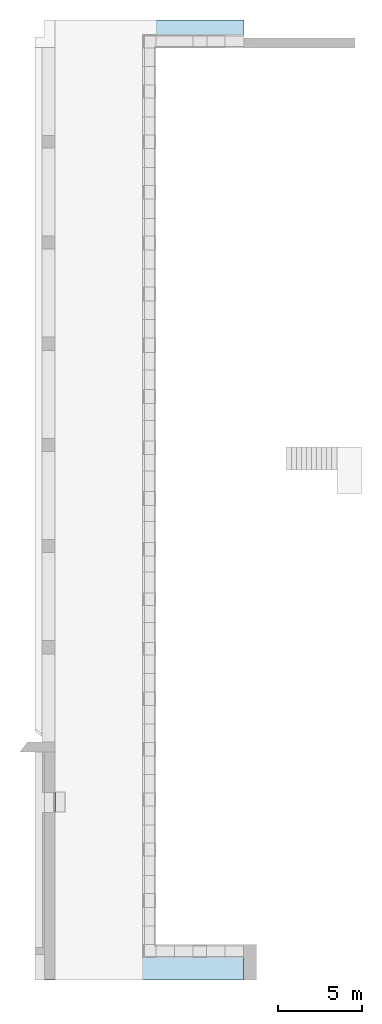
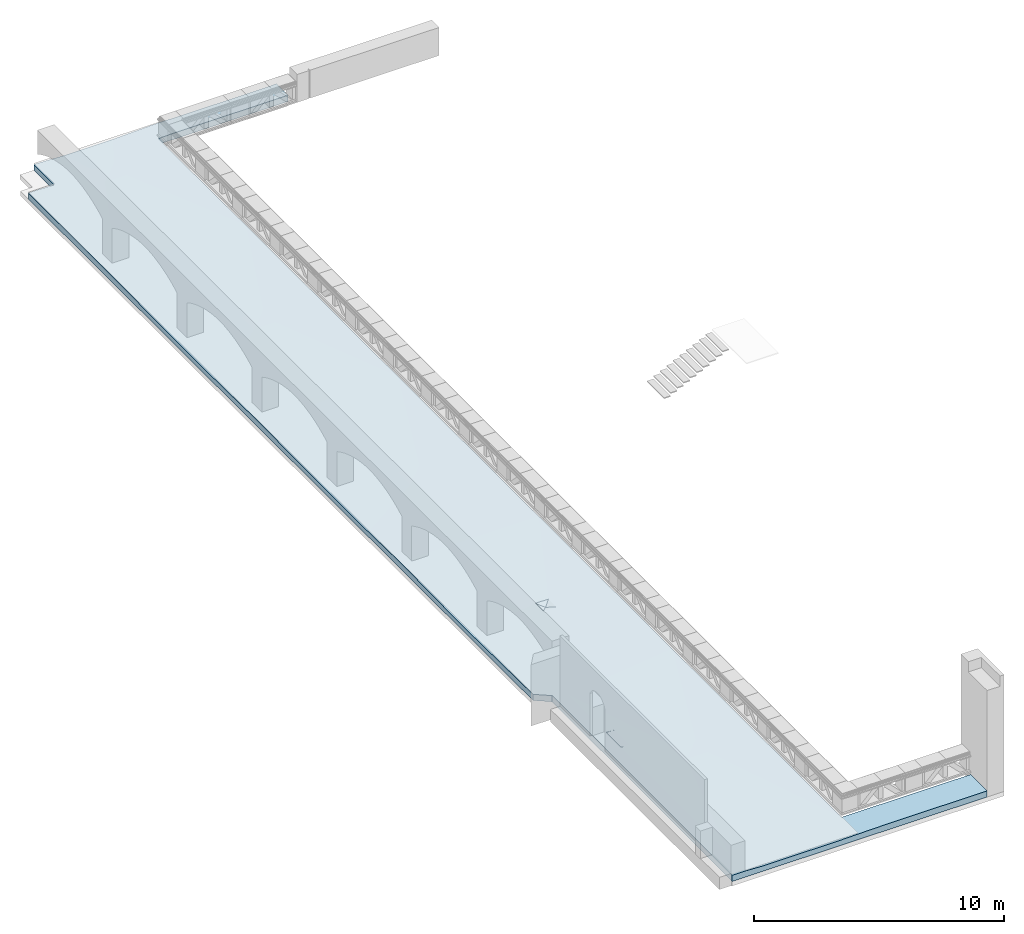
# One storey, part 5 of 9: 1 roof.
"""IFC2X3 building model written with IfcOpenShell, lengths in millimetres."""

from ifc_helpers import new_model, entity, si_unit, converted_unit, derived_unit, direction, frame, origin, place, context, subcontext, project, spatial, faceted_brep, material, layer, layer_set, element, save


model = new_model("IFC2X3")

# Units and contexts
model_context = context("Model", 3, precision=0.01, world=origin(), true_north=direction((6.123031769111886e-17, 1.0)))
body_context = subcontext(model_context, "Body", "Model", "MODEL_VIEW")
ifc_project = project(units=[si_unit("LENGTHUNIT", "METRE", prefix="MILLI"), si_unit("AREAUNIT", "SQUARE_METRE"), si_unit("VOLUMEUNIT", "CUBIC_METRE"), converted_unit("PLANEANGLEUNIT", "DEGREE", entity("IfcPlaneAngleMeasure", 0.017453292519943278), si_unit("PLANEANGLEUNIT", "RADIAN"), dimensions=[0, 0, 0, 0, 0, 0, 0]), si_unit("MASSUNIT", "GRAM", prefix="KILO"), derived_unit("MASSDENSITYUNIT", [(si_unit("MASSUNIT", "GRAM", prefix="KILO"), 1), (si_unit("LENGTHUNIT", "METRE"), -3)]), derived_unit("IONCONCENTRATIONUNIT", [(si_unit("MASSUNIT", "GRAM", prefix="KILO"), 1), (si_unit("LENGTHUNIT", "METRE"), -3)]), derived_unit("MOMENTOFINERTIAUNIT", [(si_unit("LENGTHUNIT", "METRE"), 4)]), si_unit("TIMEUNIT", "SECOND"), si_unit("FREQUENCYUNIT", "HERTZ"), si_unit("THERMODYNAMICTEMPERATUREUNIT", "DEGREE_CELSIUS"), derived_unit("THERMALTRANSMITTANCEUNIT", [(si_unit("MASSUNIT", "GRAM", prefix="KILO"), 1), (si_unit("THERMODYNAMICTEMPERATUREUNIT", "KELVIN"), -1), (si_unit("TIMEUNIT", "SECOND"), -3)]), derived_unit("THERMALCONDUCTANCEUNIT", [(si_unit("MASSUNIT", "GRAM", prefix="KILO"), 1), (si_unit("THERMODYNAMICTEMPERATUREUNIT", "KELVIN"), -1), (si_unit("TIMEUNIT", "SECOND"), -3), (si_unit("LENGTHUNIT", "METRE"), 1)]), derived_unit("VOLUMETRICFLOWRATEUNIT", [(si_unit("LENGTHUNIT", "METRE", prefix="DECI"), 3), (si_unit("TIMEUNIT", "SECOND"), -1)]), derived_unit("MASSFLOWRATEUNIT", [(si_unit("MASSUNIT", "GRAM", prefix="KILO"), 1), (si_unit("TIMEUNIT", "SECOND"), -1)]), derived_unit("ROTATIONALFREQUENCYUNIT", [(si_unit("TIMEUNIT", "SECOND"), -1)]), si_unit("ELECTRICCURRENTUNIT", "AMPERE"), si_unit("ELECTRICVOLTAGEUNIT", "VOLT"), si_unit("POWERUNIT", "WATT"), si_unit("FORCEUNIT", "NEWTON", prefix="KILO"), si_unit("ILLUMINANCEUNIT", "LUX"), si_unit("LUMINOUSFLUXUNIT", "LUMEN"), si_unit("LUMINOUSINTENSITYUNIT", "CANDELA"), si_unit("ENERGYUNIT", "JOULE"), derived_unit("USERDEFINED", [(si_unit("MASSUNIT", "GRAM", prefix="KILO"), -1), (si_unit("LENGTHUNIT", "METRE"), -2), (si_unit("TIMEUNIT", "SECOND"), 3), (si_unit("LUMINOUSFLUXUNIT", "LUMEN"), 1)]), derived_unit("USERDEFINED", [(si_unit("MASSUNIT", "GRAM", prefix="KILO"), 1), (si_unit("TIMEUNIT", "SECOND"), -3), (si_unit("LENGTHUNIT", "METRE"), 3), (si_unit("ELECTRICCURRENTUNIT", "AMPERE"), -2)]), derived_unit("SOUNDPOWERUNIT", [(si_unit("MASSUNIT", "GRAM", prefix="KILO"), 1), (si_unit("TIMEUNIT", "SECOND"), -3), (si_unit("LENGTHUNIT", "METRE"), 2)]), derived_unit("SOUNDPRESSUREUNIT", [(si_unit("MASSUNIT", "GRAM", prefix="KILO"), 1), (si_unit("LENGTHUNIT", "METRE"), -1), (si_unit("TIMEUNIT", "SECOND"), -2)]), derived_unit("LINEARVELOCITYUNIT", [(si_unit("LENGTHUNIT", "METRE"), 1), (si_unit("TIMEUNIT", "SECOND"), -1)]), si_unit("PRESSUREUNIT", "PASCAL"), derived_unit("USERDEFINED", [(si_unit("MASSUNIT", "GRAM", prefix="KILO"), 1), (si_unit("LENGTHUNIT", "METRE"), -2), (si_unit("TIMEUNIT", "SECOND"), -2)]), derived_unit("LINEARFORCEUNIT", [(si_unit("MASSUNIT", "GRAM", prefix="KILO"), 1), (si_unit("TIMEUNIT", "SECOND"), -2)]), derived_unit("PLANARFORCEUNIT", [(si_unit("MASSUNIT", "GRAM", prefix="KILO"), 1), (si_unit("LENGTHUNIT", "METRE"), -1), (si_unit("TIMEUNIT", "SECOND"), -2)]), derived_unit("SPECIFICHEATCAPACITYUNIT", [(si_unit("THERMODYNAMICTEMPERATUREUNIT", "KELVIN"), -1), (si_unit("LENGTHUNIT", "METRE"), 2), (si_unit("TIMEUNIT", "SECOND"), -2)]), derived_unit("HEATFLUXDENSITYUNIT", [(si_unit("MASSUNIT", "GRAM", prefix="KILO"), 1), (si_unit("TIMEUNIT", "SECOND"), -3)]), derived_unit("HEATINGVALUEUNIT", [(si_unit("LENGTHUNIT", "METRE"), 2), (si_unit("TIMEUNIT", "SECOND"), -2)]), derived_unit("VAPORPERMEABILITYUNIT", [(si_unit("LENGTHUNIT", "METRE"), -1), (si_unit("TIMEUNIT", "SECOND"), 1)]), derived_unit("DYNAMICVISCOSITYUNIT", [(si_unit("MASSUNIT", "GRAM", prefix="KILO"), 1), (si_unit("TIMEUNIT", "SECOND"), -1), (si_unit("LENGTHUNIT", "METRE"), -1)]), derived_unit("THERMALEXPANSIONCOEFFICIENTUNIT", [(si_unit("THERMODYNAMICTEMPERATUREUNIT", "KELVIN"), -1)]), derived_unit("MODULUSOFELASTICITYUNIT", [(si_unit("MASSUNIT", "GRAM", prefix="KILO"), 1), (si_unit("LENGTHUNIT", "METRE"), -1), (si_unit("TIMEUNIT", "SECOND"), -2)]), derived_unit("ISOTHERMALMOISTURECAPACITYUNIT", [(si_unit("MASSUNIT", "GRAM", prefix="KILO"), -1), (si_unit("LENGTHUNIT", "METRE"), 3)]), derived_unit("MOISTUREDIFFUSIVITYUNIT", [(si_unit("TIMEUNIT", "SECOND"), -1), (si_unit("LENGTHUNIT", "METRE"), 2)]), derived_unit("MASSPERLENGTHUNIT", [(si_unit("MASSUNIT", "GRAM", prefix="KILO"), 1), (si_unit("LENGTHUNIT", "METRE"), -1)]), derived_unit("THERMALRESISTANCEUNIT", [(si_unit("MASSUNIT", "GRAM", prefix="KILO"), -1), (si_unit("TIMEUNIT", "SECOND"), 3), (si_unit("THERMODYNAMICTEMPERATUREUNIT", "KELVIN"), 1)]), derived_unit("ACCELERATIONUNIT", [(si_unit("LENGTHUNIT", "METRE"), 1), (si_unit("TIMEUNIT", "SECOND"), -2)]), derived_unit("ANGULARVELOCITYUNIT", [(si_unit("TIMEUNIT", "SECOND"), -1), (si_unit("PLANEANGLEUNIT", "RADIAN"), 1)]), derived_unit("LINEARSTIFFNESSUNIT", [(si_unit("MASSUNIT", "GRAM", prefix="KILO"), 1), (si_unit("TIMEUNIT", "SECOND"), -2)]), derived_unit("WARPINGCONSTANTUNIT", [(si_unit("LENGTHUNIT", "METRE"), 6)]), derived_unit("LINEARMOMENTUNIT", [(si_unit("MASSUNIT", "GRAM", prefix="KILO"), 1), (si_unit("LENGTHUNIT", "METRE"), 1), (si_unit("TIMEUNIT", "SECOND"), -2)]), derived_unit("TORQUEUNIT", [(si_unit("MASSUNIT", "GRAM", prefix="KILO"), 1), (si_unit("LENGTHUNIT", "METRE"), 2), (si_unit("TIMEUNIT", "SECOND"), -2)])], contexts=[model_context])

# Site, building, storey
site_placement = place(None, origin())
site = spatial("IfcSite", under=ifc_project, at=site_placement, Name="Default", CompositionType="ELEMENT")
building_placement = place(site_placement, origin())
building = spatial("IfcBuilding", under=site, at=building_placement, Name="Eesti Rahvusraamatukogu hoone renoveerimise projekteerimistööd", CompositionType="ELEMENT")
storey_placement = place(building_placement, frame((0.0, 0.0, 3100.0)))
storey = spatial("IfcBuildingStorey", under=building, at=storey_placement, Name="E-korpus 2. korrus", CompositionType="ELEMENT", Elevation=3100.0)

# Roof
ifc_material_1 = material(Name="EST. Betoon. Kohtvalu")
ifc_layer_1 = layer(ifc_material_1, 50.0)
ifc_material_2 = material(Name="EST. Soojustus. EPS 100 kaldekiht, PIR Kingspan Therma TP10 100mm")
ifc_layer_2 = layer(ifc_material_2, 250.00000000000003)
ifc_layer_set = layer_set([ifc_layer_1, ifc_layer_2], Name="Basic Roof:KL-21 - käidav, betoonplaat")
roof_placement = place(storey_placement, frame((-49781.62808124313, -1321.279790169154, 100.0)))
element("IfcRoof", 1, at=roof_placement, inside=storey, material=ifc_layer_set, Name="Basic Roof:KL-21 - käidav, betoonplaat", ObjectType="Basic Roof:KL-21 - käidav, betoonplaat", ShapeType="NOTDEFINED", context=body_context, shape_type="Brep", body=[
    faceted_brep([(588.4700814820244, 0.0, 0.0), (616.0967259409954, 13396.279790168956, 0.0), (618.2873120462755, 14458.504499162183, 0.0), (0.0, 14924.417407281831, 0.0), (0.0, 55327.07979016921, 0.0), (1201.6280812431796, 55327.0797901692, 0.0), (1201.6280812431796, 56967.20177759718, 0.0), (12411.628081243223, 56967.20177759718, 0.0), (12411.628081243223, 56031.65607004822, 0.0), (6411.628081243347, 56031.65607004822, 0.0), (6411.628081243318, 1321.2797901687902, 0.0), (12371.628081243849, 1321.2797901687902, 0.0), (12371.628081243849, 0.0, 0.0), (1201.6280812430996, 0.0, 0.0), (6411.628081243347, 56031.65607004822, 280.0), (6411.628081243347, 49014.359068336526, 300.0), (6411.628081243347, 14890.719993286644, 300.0), (6411.628081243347, 1321.2797901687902, 300.0), (12411.628081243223, 56031.65607004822, 300.0), (7221.628081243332, 56031.65607004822, 300.0), (7189.848851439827, 56031.65607004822, 300.0), (12411.628081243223, 56967.20177759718, 300.0), (618.2873120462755, 14458.504499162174, 300.0), (0.0, 14924.417407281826, 300.0), (588.4700814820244, 0.0, 95.0), (588.4700814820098, 0.0, 300.0), (12371.628081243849, 1321.2797901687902, 300.0), (12371.628081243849, 0.0, 300.0), (0.0, 55327.07979016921, 300.0), (421.628081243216, 55327.07979016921, 300.0), (1201.6280812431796, 55327.0797901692, 270.0), (1201.6280812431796, 56967.20177759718, 278.1717136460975), (7221.628081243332, 56967.20177759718, 300.0), (7601.165129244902, 56967.20177759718, 282.5131643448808), (12058.46671529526, 56967.20177759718, 282.51316434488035), (7189.848851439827, 56967.20177759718, 300.0), (6548.568146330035, 56967.20177759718, 283.5193114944), (3093.4229105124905, 55567.32414199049, 200.0), (2635.319833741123, 56967.20177759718, 224.2152621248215), (1201.6280812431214, 11161.93814114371, 280.0), (1201.6280812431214, 9961.938141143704, 280.0), (1591.9341914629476, 9961.938141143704, 280.0), (1591.934191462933, 11161.93814114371, 280.0), (1201.6280812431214, 11161.93814114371, 300.0), (1208.7022692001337, 11161.938141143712, 300.0), (1201.6280812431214, 9961.938141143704, 300.0), (1208.7022692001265, 9961.938141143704, 300.0), (1208.7022692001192, 0.0, 300.0), (1208.7022692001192, 1321.2797901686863, 300.0), (1208.7022692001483, 14190.719993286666, 300.0), (1208.7022692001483, 14195.214404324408, 300.0), (7914.161088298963, 0.0, 300.0), (4124.861880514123, 9062.760397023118, 200.0), (4124.861880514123, 8062.760397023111, 200.0), (3124.8618805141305, 8062.760397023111, 200.0), (3124.8618805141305, 9062.760397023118, 200.0), (3624.861880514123, 8562.76039702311, 180.0), (3326.6299628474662, 19871.467160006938, 200.0), (6399.128081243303, 25569.934230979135, 300.0), (3926.6299628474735, 20498.262079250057, 200.0), (0.0, 25569.93423097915, 300.0), (4118.140071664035, 30170.950942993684, 200.0), (3118.1400716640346, 30170.950942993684, 200.0), (0.0, 28101.1839715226, 244.9849913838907), (421.6280812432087, 49014.35906833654, 300.0), (3093.4229105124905, 54567.32414199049, 200.0), (6405.612568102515, 36831.93941330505, 300.0), (0.0, 40047.631626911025, 245.0453873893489), (3125.7579151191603, 42683.48136918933, 200.0), (3125.7579151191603, 43683.48136918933, 200.0), (0.0, 44705.38031622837, 245.04538738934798), (4118.140071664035, 31170.95094299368, 200.0), (4843.230568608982, 56967.20177759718, 224.2152621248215), (4093.422910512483, 55567.32414199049, 200.0), (4093.422910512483, 54567.32414199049, 200.0), (3593.422910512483, 55067.32414199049, 180.0), (0.0, 48709.484703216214, 300.0), (0.0, 49138.96259244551, 294.7103420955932), (0.0, 55117.76198363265, 294.7103420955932), (0.0, 36831.939413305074, 300.0), (4125.75791511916, 42683.48136918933, 200.0), (3118.1400716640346, 31170.95094299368, 200.0), (3618.1400716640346, 30670.950942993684, 180.0), (0.0, 33717.5461186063, 244.9849913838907), (1201.6280812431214, 20147.07979016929, 214.71871914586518), (0.0, 20242.417956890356, 225.9930654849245), (0.0, 21446.432567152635, 235.15269359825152), (3326.6299628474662, 20498.262079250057, 200.0), (3926.6299628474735, 19871.467160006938, 200.0), (3626.6299628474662, 20198.262079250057, 80.0), (1944.827461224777, 0.0, 261.5454915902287), (5531.5388134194, 0.0, 261.5454915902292), (6400.18607695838, 0.0, 279.83177171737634), (3625.7579151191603, 43183.48136918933, 180.0), (4125.75791511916, 43683.48136918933, 200.0)], [[[0, 1, 2, 3, 4, 5, 6, 7, 8, 9, 10, 11, 12, 13]], [[10, 9, 14, 15, 16, 17]], [[9, 8, 18, 19, 20, 14]], [[8, 7, 21, 18]], [[3, 2, 22, 23]], [[2, 1, 0, 24, 25, 22]], [[11, 10, 17, 26]], [[12, 11, 26, 27]], [[28, 29, 30, 5, 4]], [[6, 5, 30, 31]], [[32, 19, 33]], [[18, 21, 34]], [[14, 20, 35, 36]], [[31, 30, 37, 38]], [[39, 40, 41, 42]], [[43, 39, 42, 44]], [[40, 39, 43, 45]], [[40, 45, 46, 41]], [[22, 25, 47, 48, 46, 45, 43, 44, 49, 16, 50]], [[26, 17, 51, 27]], [[17, 16, 52, 53]], [[49, 44, 42, 41, 46, 48, 54, 55]], [[55, 54, 56]], [[54, 53, 56]], [[48, 17, 53, 54]], [[56, 53, 52]], [[55, 52, 49]], [[52, 55, 56]], [[22, 50, 57]], [[16, 58, 59]], [[60, 58, 61, 62, 63]], [[30, 64, 65]], [[58, 16, 15, 66]], [[67, 68, 69, 70]], [[58, 66, 71]], [[64, 30, 29]], [[20, 19, 32, 35]], [[14, 36, 72, 73]], [[65, 37, 30]], [[64, 15, 74, 65]], [[38, 37, 73, 72]], [[73, 74, 14]], [[37, 65, 75]], [[15, 14, 74]], [[76, 64, 77]], [[64, 29, 78, 77]], [[65, 74, 75]], [[73, 37, 75]], [[74, 73, 75]], [[79, 66, 80, 68, 67]], [[19, 18, 34, 33]], [[16, 49, 52]], [[58, 71, 61]], [[71, 81, 82]], [[63, 62, 81, 83]], [[66, 79, 83, 81, 71]], [[23, 22, 84, 85]], [[85, 84, 86]], [[58, 60, 86, 84]], [[58, 84, 87]], [[16, 59, 88]], [[84, 22, 57]], [[50, 16, 57]], [[84, 57, 87]], [[57, 16, 88]], [[59, 87, 89]], [[59, 58, 87]], [[87, 57, 89]], [[88, 59, 89]], [[57, 88, 89]], [[17, 48, 90, 91]], [[51, 17, 92]], [[17, 91, 92]], [[48, 47, 90]], [[81, 62, 82]], [[61, 71, 82]], [[62, 61, 82]], [[93, 80, 94]], [[94, 80, 15]], [[80, 93, 68]], [[69, 93, 94]], [[66, 15, 80]], [[70, 69, 64, 76]], [[93, 69, 68]], [[15, 64, 69, 94]], [[29, 28, 78]], [[4, 3, 23, 85, 86, 60, 63, 83, 79, 67, 70, 76, 77, 78, 28]], [[7, 6, 31, 38, 72, 36, 35, 32, 33, 34, 21]], [[0, 13, 12, 27, 51, 92, 91, 90, 47, 25, 24]]]),
])

save(model, "model.ifc")
